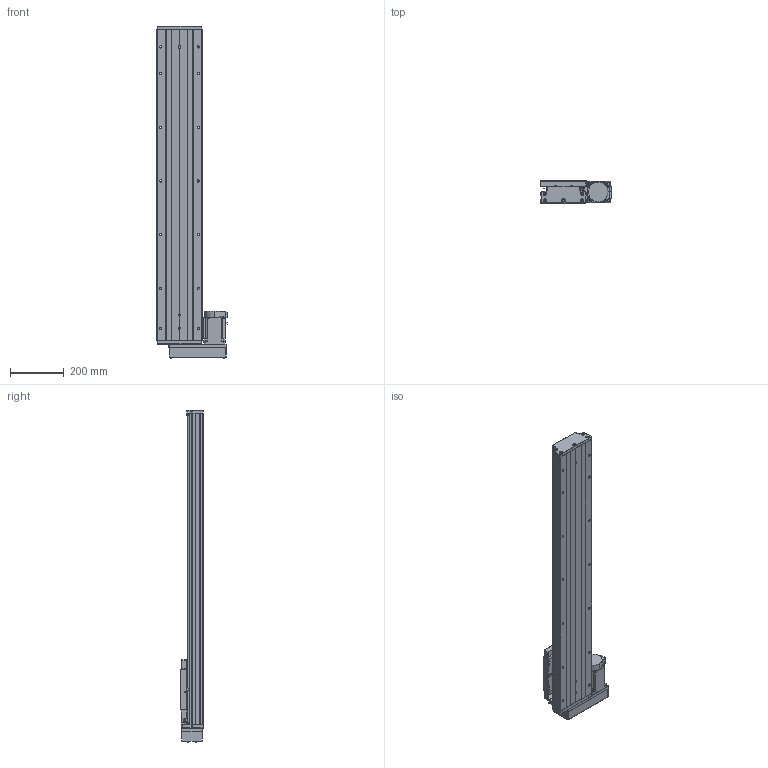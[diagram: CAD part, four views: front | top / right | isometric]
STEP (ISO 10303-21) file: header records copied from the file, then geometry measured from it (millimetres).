
FILE_DESCRIPTION (( 'STEP AP203' ), '1' );
FILE_NAME ('GTH17-900-BR-M75-C4.step', '2023-06-30T13:20:24', ( '微软用户' ), ( '微软中国' ), 'SwSTEP 2.0', 'SolidWorks 2020', '' );
FILE_SCHEMA (( 'CONFIG_CONTROL_DESIGN' ));
Length unit declared in the file: millimetre
Products named in the file (19): GTH17-004; GBT77-2000 M3×3; GTH17-015-2_CTHA86-015-2; GTH17-005; GBT 70.1-M6¡Á20_M6¡Á20; GTH17-033; GB1155-6X6; GTH17-031; GTH17-900-BR-M75-C4; CTHA60-017; GBT 70.2-M3¡Á5_M3¡Á6; EE_SX911P_R; す晦芛蹟隊 M3℅5; GTH17-001_900; CTHA60-016; HG-KN73J-S100; GTH17-002_GTH17-002; GBT 70.1-M3℅5; GBT 70.2-M4¡Á45_M4¡Á35
Assembly tree (58 placements, depth 2):
  GTH17-900-BR-M75-C4
    GTH17-001_900
    GTH17-002_GTH17-002
    GTH17-004
    GTH17-005
    GB1155-6X6  x2
    CTHA60-017  x3
    EE_SX911P_R  x3
    CTHA60-016  x2
    GBT 70.1-M3℅5  x6
    GBT77-2000 M3×3  x6
    GBT 70.1-M6¡Á20_M6¡Á20  x10
    GTH17-031
    GBT 70.2-M3¡Á5_M3¡Á6  x8
    す晦芛蹟隊 M3℅5  x6
    HG-KN73J-S100
    GBT 70.2-M4¡Á45_M4¡Á35  x4
    GTH17-015-2_CTHA86-015-2
    GTH17-033
Bounding box: 264.3 x 87 x 1238.2 mm (x, y, z)
Volume: 10181692.9 mm3; surface area: 1381721.3 mm2
Topology: 61 solids, 61 shells, 2459 faces, 5869 edges, 3635 vertices
Faces by surface type: plane 1312, cylinder 674, cone 297, torus 124, sphere 32, bspline 20
Entity records: 45046 total; most frequent: CARTESIAN_POINT 10416, DIRECTION 6541, ORIENTED_EDGE 6450, EDGE_CURVE 3225, AXIS2_PLACEMENT_3D 2238, LINE 2065, VECTOR 2065, VERTEX_POINT 2047
